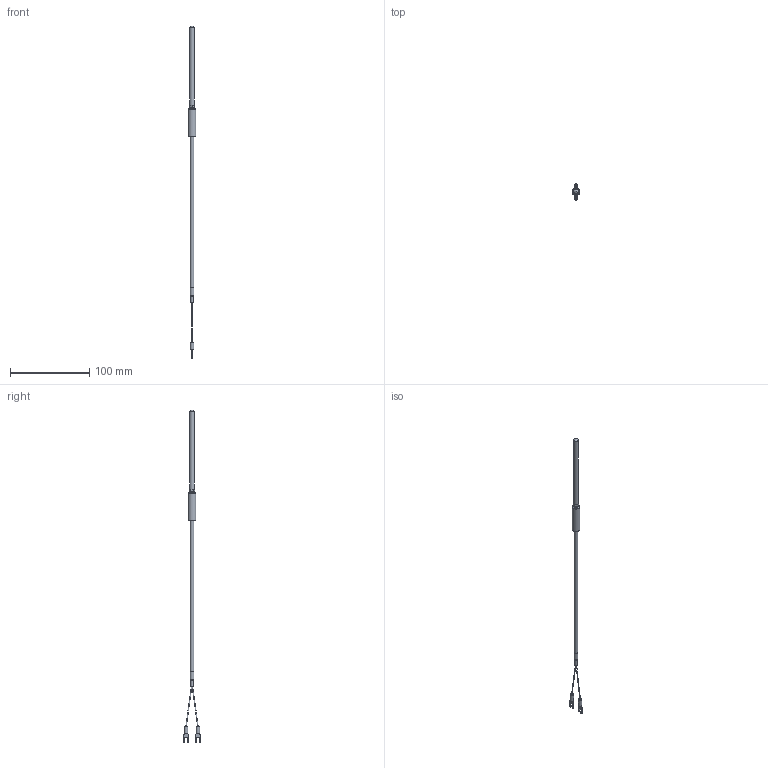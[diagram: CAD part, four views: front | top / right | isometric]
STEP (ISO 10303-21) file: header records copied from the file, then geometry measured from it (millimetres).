
FILE_DESCRIPTION (( 'STEP AP203' ), '1' );
FILE_NAME ('YIT101-5(0).STEP', '2024-11-21T04:03:50', ( '' ), ( '' ), 'SwSTEP 2.0', 'SolidWorks 2021', '' );
FILE_SCHEMA (( 'CONFIG_CONTROL_DESIGN' ));
Length unit declared in the file: millimetre
Products named in the file (1): YIT101-5(0)
Bounding box: 10 x 20.85 x 420 mm (x, y, z)
Volume: 9853.6 mm3; surface area: 7103.7 mm2
Topology: 1 solids, 1 shells, 67 faces, 163 edges, 106 vertices
Faces by surface type: plane 34, cylinder 21, bspline 8, cone 3, torus 1
Full cylindrical faces by diameter (mm): 3.16 x1, 4.5 x2, 4.8 x1, 5 x1, 6 x1, 10 x1
Entity records: 2125 total; most frequent: CARTESIAN_POINT 562, DIRECTION 300, ORIENTED_EDGE 290, EDGE_CURVE 145, AXIS2_PLACEMENT_3D 107, VERTEX_POINT 101, EDGE_LOOP 88, LINE 86
